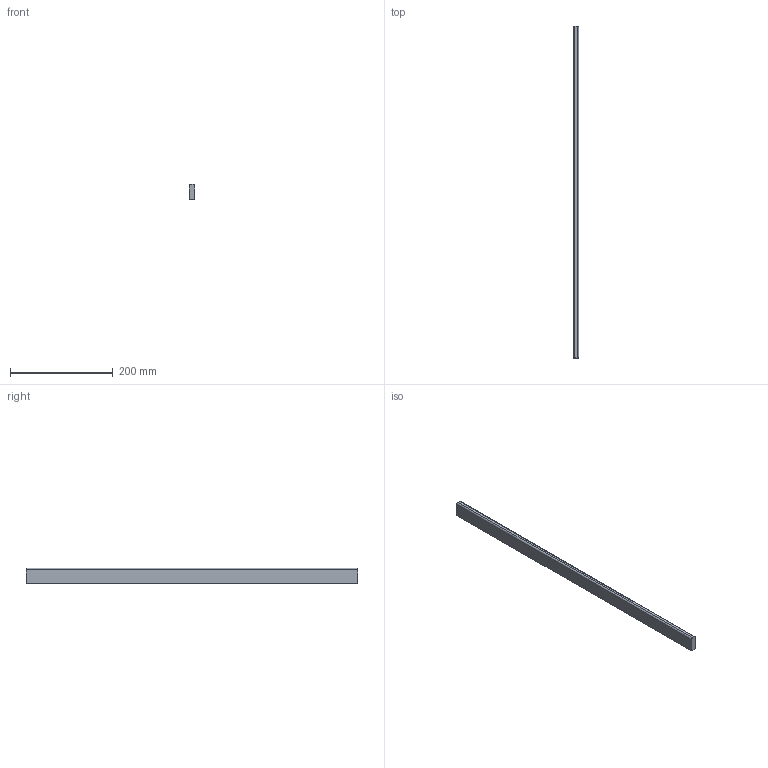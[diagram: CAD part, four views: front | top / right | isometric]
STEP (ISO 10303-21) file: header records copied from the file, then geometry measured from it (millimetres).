
FILE_DESCRIPTION (( 'STEP AP214' ), '1' );
FILE_NAME ('_Seitenreling_SP60700300_RL645.step', '2010-09-06T14:52:17', ( 'grass' ), ( '' ), 'SwSTEP 2.0', 'SolidWorks 2010', '' );
FILE_SCHEMA (( 'AUTOMOTIVE_DESIGN' ));
Length unit declared in the file: millimetre
Products named in the file (1): _Seitenreling_SP60700300_RL645
Bounding box: 10.5 x 645 x 30 mm (x, y, z)
Volume: 200683.5 mm3; surface area: 51206.3 mm2
Topology: 1 solids, 1 shells, 8 faces, 18 edges, 12 vertices
Faces by surface type: plane 6, cylinder 2
Entity records: 260 total; most frequent: DIRECTION 40, CARTESIAN_POINT 39, ORIENTED_EDGE 36, EDGE_CURVE 18, LINE 14, VECTOR 14, AXIS2_PLACEMENT_3D 13, VERTEX_POINT 12
